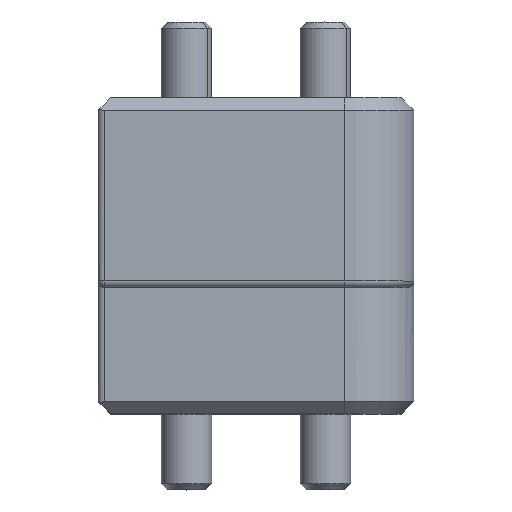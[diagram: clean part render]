
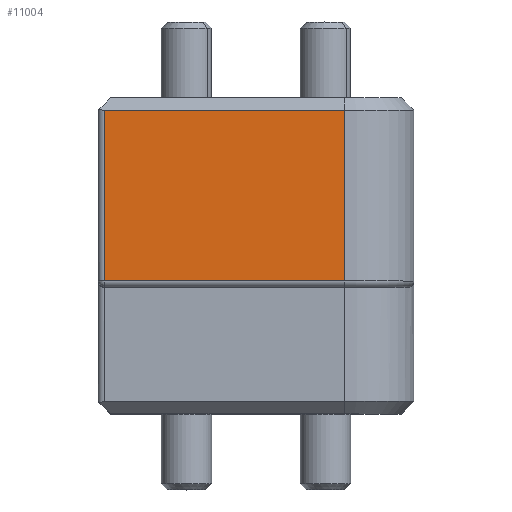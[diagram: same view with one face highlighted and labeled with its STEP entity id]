
A CAD part, top view. The second image highlights one B-rep face of the part: STEP entity #11004.
In plain terms, the highlighted planar face has unit normal (0, 0, 1) as drawn and (0, 1, 0) by its records, which use the part's own axes.
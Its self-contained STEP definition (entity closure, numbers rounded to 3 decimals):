
#618 = CARTESIAN_POINT ( 'NONE',  ( 19.5, 15., -15. ) ) ;
#662 = DIRECTION ( 'NONE',  ( 0., 0., -1. ) ) ;
#1459 = LINE ( 'NONE', #4207, #2755 ) ;
#1939 = PLANE ( 'NONE',  #8376 ) ;
#2015 = LINE ( 'NONE', #5682, #10010 ) ;
#2023 = CARTESIAN_POINT ( 'NONE',  ( 0.5, 15., -0.5 ) ) ;
#2357 = VERTEX_POINT ( 'NONE', #2023 ) ;
#2399 = EDGE_CURVE ( 'NONE', #7843, #10004, #2015, .T. ) ;
#2755 = VECTOR ( 'NONE', #5412, 1000. ) ;
#3859 = CARTESIAN_POINT ( 'NONE',  ( 0., 15., -15. ) ) ;
#4207 = CARTESIAN_POINT ( 'NONE',  ( 0.5, 15., -15. ) ) ;
#4490 = ORIENTED_EDGE ( 'NONE', *, *, #2399, .T. ) ;
#4549 = CARTESIAN_POINT ( 'NONE',  ( 19.5, 15., -0.5 ) ) ;
#4648 = DIRECTION ( 'NONE',  ( 0., 0., 1. ) ) ;
#4819 = DIRECTION ( 'NONE',  ( 0., 1., 0. ) ) ;
#5053 = LINE ( 'NONE', #6108, #8842 ) ;
#5412 = DIRECTION ( 'NONE',  ( 0., 0., 1. ) ) ;
#5547 = CARTESIAN_POINT ( 'NONE',  ( 0.5, 15., -14. ) ) ;
#5682 = CARTESIAN_POINT ( 'NONE',  ( 0., 15., -14. ) ) ;
#5753 = VERTEX_POINT ( 'NONE', #4549 ) ;
#6108 = CARTESIAN_POINT ( 'NONE',  ( 0., 15., -0.5 ) ) ;
#6349 = LINE ( 'NONE', #618, #7218 ) ;
#6450 = EDGE_CURVE ( 'NONE', #10004, #2357, #1459, .T. ) ;
#6468 = ORIENTED_EDGE ( 'NONE', *, *, #8212, .T. ) ;
#6829 = DIRECTION ( 'NONE',  ( 1., 0., 0. ) ) ;
#7218 = VECTOR ( 'NONE', #662, 1000. ) ;
#7658 = ORIENTED_EDGE ( 'NONE', *, *, #8296, .T. ) ;
#7843 = VERTEX_POINT ( 'NONE', #10245 ) ;
#8212 = EDGE_CURVE ( 'NONE', #2357, #5753, #5053, .T. ) ;
#8296 = EDGE_CURVE ( 'NONE', #5753, #7843, #6349, .T. ) ;
#8376 = AXIS2_PLACEMENT_3D ( 'NONE', #3859, #4819, #4648 ) ;
#8441 = DIRECTION ( 'NONE',  ( -1., 0., 0. ) ) ;
#8842 = VECTOR ( 'NONE', #6829, 1000. ) ;
#8959 = EDGE_LOOP ( 'NONE', ( #10397, #6468, #7658, #4490 ) ) ;
#9344 = FACE_OUTER_BOUND ( 'NONE', #8959, .T. ) ;
#10004 = VERTEX_POINT ( 'NONE', #5547 ) ;
#10010 = VECTOR ( 'NONE', #8441, 1000. ) ;
#10245 = CARTESIAN_POINT ( 'NONE',  ( 19.5, 15., -14. ) ) ;
#10397 = ORIENTED_EDGE ( 'NONE', *, *, #6450, .T. ) ;
#11004 = ADVANCED_FACE ( 'NONE', ( #9344 ), #1939, .T. ) ;
